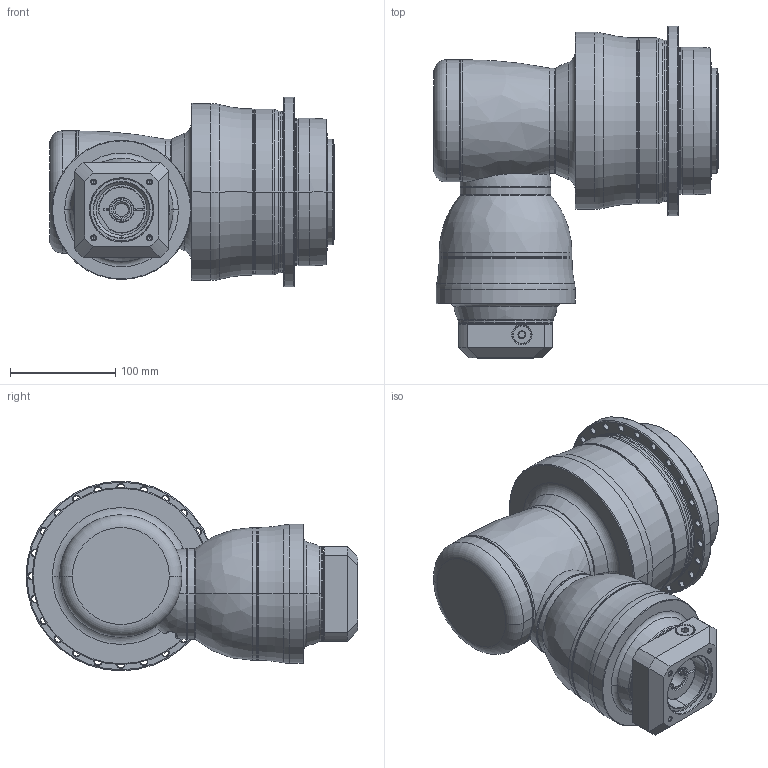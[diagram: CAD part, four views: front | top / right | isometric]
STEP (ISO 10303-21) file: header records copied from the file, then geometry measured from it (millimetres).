
FILE_DESCRIPTION((''),'2;1');
FILE_NAME('APK140_4ST_19-P0409400201_ASM','2018-10-04T',('D00080'),(''),'PRO/ENGINEER BY PARAMETRIC TECHNOLOGY CORPORATION, 2015240','PRO/ENGINEER BY PARAMETRIC TECHNOLOGY CORPORATION, 2015240','');
FILE_SCHEMA(('CONFIG_CONTROL_DESIGN'));
Length unit declared in the file: millimetre
Products named in the file (13): P1008400002; P1832500001; P0278501003; P0359501103; P1211500001; P1315400001; P1007401001; P1317410101; P0503400006; P0912302001; P0409400201; 21711412017; APK140_4ST_19-P0409400201_ASM
Assembly tree (12 placements, depth 2):
  APK140_4ST_19-P0409400201_ASM
    P1008400002
    P1832500001
    P0278501003
    P0359501103
    P1211500001
    P1315400001
    P1007401001
    P1317410101
    P0503400006
    P0912302001
    P0409400201
    21711412017
Bounding box: 270.3 x 315 x 180 mm (x, y, z)
Volume: 5185723.3 mm3; surface area: 529000.4 mm2
Topology: 13 solids, 38 shells, 792 faces, 1797 edges, 1078 vertices
Faces by surface type: cylinder 313, cone 222, plane 131, torus 86, bspline 38, sphere 2
Entity records: 27954 total; most frequent: CARTESIAN_POINT 9617, DIRECTION 4199, ORIENTED_EDGE 3404, AXIS2_PLACEMENT_3D 1800, EDGE_CURVE 1753, VERTEX_POINT 1078, CIRCLE 1011, EDGE_LOOP 947
